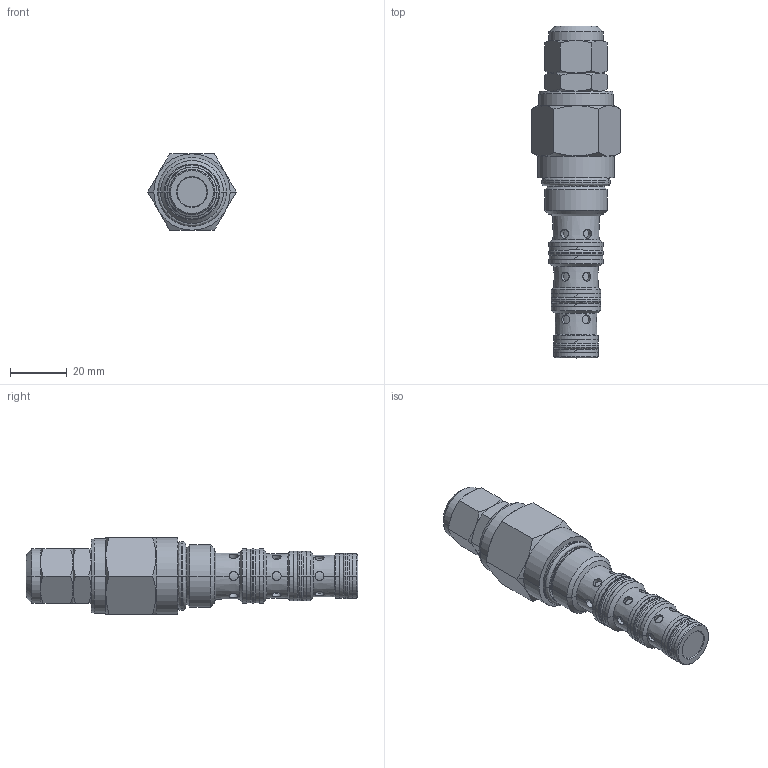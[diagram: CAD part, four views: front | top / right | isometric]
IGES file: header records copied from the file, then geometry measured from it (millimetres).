
Start section:  PTC IGES file: DCPS-10-A-C.igs
Global section: file name: DCPS-10-A-C.igs; native system: Creo Elements/Pro by Parametric Technology Corporation; preprocessor: 2015070; author: torrese; organization: Unknown; date: 20151221.144405; units: inch
Bounding box: 31.15 x 116.56 x 26.97 mm (x, y, z)
Volume: 40539.5 mm3; surface area: 9758.4 mm2
Topology: 1 solids, 1 shells, 242 faces, 544 edges, 327 vertices
Faces by surface type: revolution 187, bspline 55
